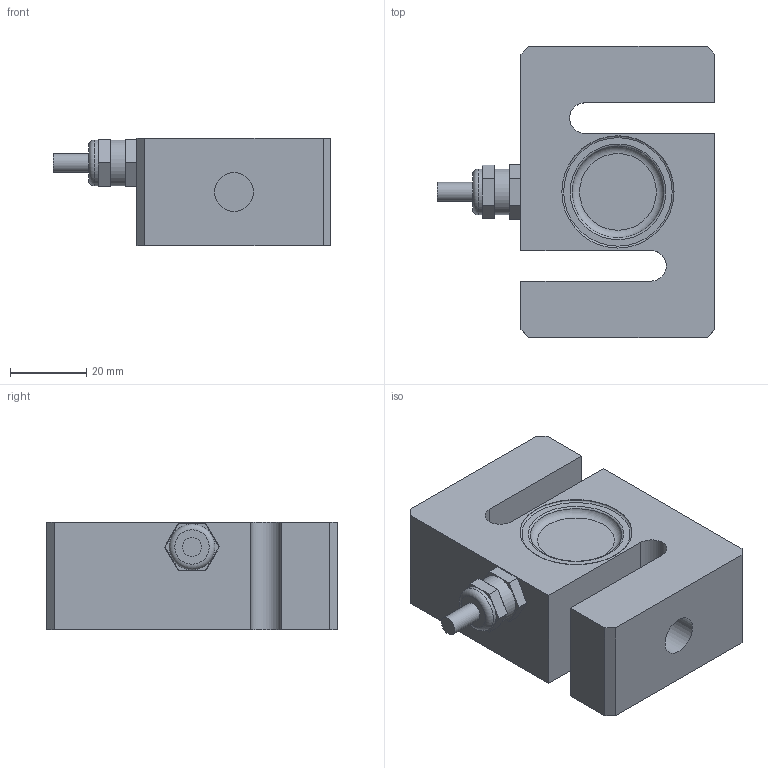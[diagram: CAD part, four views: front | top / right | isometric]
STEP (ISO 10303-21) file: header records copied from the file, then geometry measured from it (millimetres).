
FILE_DESCRIPTION(/* description */ (''),/* implementation_level */ '2;1');
FILE_NAME(/* name */ 'C:/Users/fardi/Dropbox/Anyload/Load Cell Models/3D Drawing/101/101BH-500kg v1.step',/* time_stamp */ '2020-01-21T14:12:52-08:00',/* author */ (''),/* organization */ (''),/* preprocessor_version */ 'ST-DEVELOPER v18',/* originating_system */ 'Autodesk Translation Framework v8.12.0.6',/* authorisation */ '');
FILE_SCHEMA (('AUTOMOTIVE_DESIGN { 1 0 10303 214 3 1 1 }'));
Length unit declared in the file: millimetre
Products named in the file (1): 101BH-500kg
Bounding box: 72.77 x 76.2 x 28.2 mm (x, y, z)
Surface area: 19245.1 mm2 (no closed solid volume)
Topology: 0 solids, 2 shells, 53 faces, 145 edges, 103 vertices
Faces by surface type: plane 37, cylinder 9, torus 7
Full cylindrical faces by diameter (mm): 5 x1, 10.2 x2, 12 x2, 29.4 x2
Entity records: 1764 total; most frequent: DIRECTION 311, CARTESIAN_POINT 302, ORIENTED_EDGE 283, EDGE_CURVE 145, AXIS2_PLACEMENT_3D 112, VERTEX_POINT 103, LINE 87, VECTOR 87
